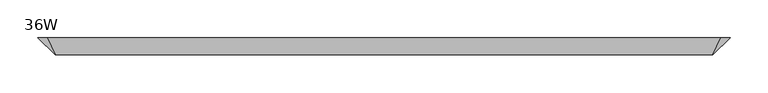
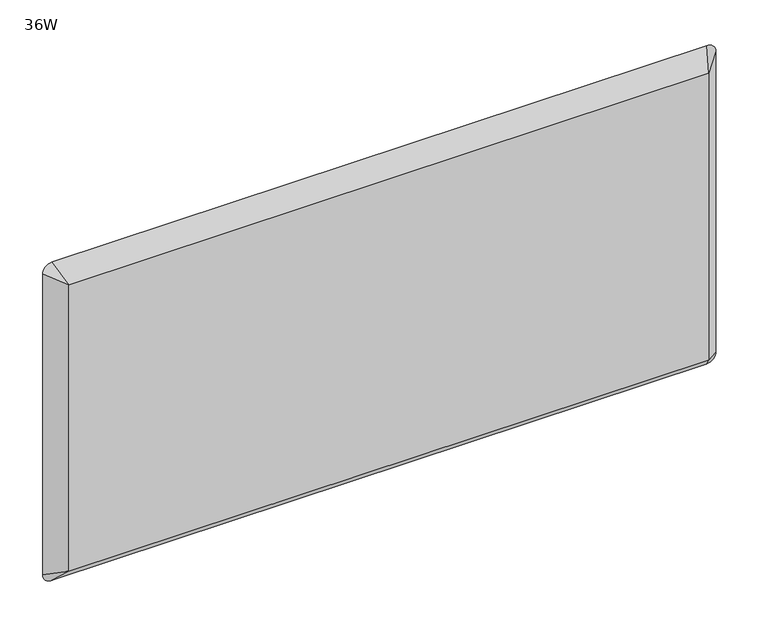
"""IFC4 building model written with IfcOpenShell, lengths in millimetres: furniture geometry, Steelcase - Answer Solution - Tackboards for Use with Wall Channels : 36W."""

import ifcopenshell
import ifcopenshell.guid

model = None  # the IFC model being written
_history = None  # IfcOwnerHistory: only IFC2X3 demands one
_inside = {}  # id of a spatial element -> (the spatial element, [elements in it])
_under = {}  # id of a project, library or spatial element -> (it, [spatial elements below it])
_declared = {}  # id of a project -> (the project, [libraries it declares])
_typed = {}  # id of a type object -> (the type object, [elements of that type])
_made_of = {}  # id of a material, layer set ... -> (it, [elements and type objects made of it])


def new_model(schema):
    """Start an empty IFC model of exactly this schema.

    Asked for "IFC4X3", IfcOpenShell would pick the latest addendum, in which some entities
    have other attributes; the version numbers below select the first issue.
    IFC2X3 requires an IfcOwnerHistory on every rooted entity: one is made here for all.
    """
    global model, _history
    if schema == "IFC4X3":
        model = ifcopenshell.file(schema_version=(4, 3, 0, 0))
    else:
        model = ifcopenshell.file(schema=schema)
    _inside.clear()
    _under.clear()
    _declared.clear()
    _typed.clear()
    _made_of.clear()
    _history = None
    if model.schema == "IFC2X3":
        org = make("IfcOrganization", Name="unknown")
        user = make(
            "IfcPersonAndOrganization",
            ThePerson=make("IfcPerson", FamilyName="unknown"),
            TheOrganization=org,
        )
        app = make(
            "IfcApplication",
            ApplicationDeveloper=org,
            Version="unknown",
            ApplicationFullName="unknown",
            ApplicationIdentifier="unknown",
        )
        _history = make(
            "IfcOwnerHistory",
            OwningUser=user,
            OwningApplication=app,
            ChangeAction="ADDED",
            CreationDate=0,
        )
    return model


def make(cls, **values):
    """One entity of the class cls with the attributes given. An attribute that is None is left unset."""
    return model.create_entity(
        cls, **{name: value for name, value in values.items() if value is not None}
    )


def rooted(cls, **values):
    """An entity with a GlobalId (a new one), such as an element, a storey or a relation."""
    return make(cls, GlobalId=ifcopenshell.guid.new(), OwnerHistory=_history, **values)


def si_unit(unit_type, name, prefix=None):
    """IfcSIUnit, for example si_unit("LENGTHUNIT", "METRE", prefix="MILLI")."""
    return make("IfcSIUnit", UnitType=unit_type, Prefix=prefix, Name=name)


def assignment(units):
    """IfcUnitAssignment: the units of a project."""
    return None if units is None else make("IfcUnitAssignment", Units=units)


def point(xyz):
    """IfcCartesianPoint."""
    return None if xyz is None else make("IfcCartesianPoint", Coordinates=xyz)


def direction(xyz):
    """IfcDirection."""
    return None if xyz is None else make("IfcDirection", DirectionRatios=xyz)


def frame(location, z_axis=None, x_axis=None):
    """IfcAxis2Placement3D, a coordinate frame: its origin and axes. An axis left out is left unset."""
    return make(
        "IfcAxis2Placement3D",
        Location=point(location),
        Axis=direction(z_axis),
        RefDirection=direction(x_axis),
    )


def origin():
    """The frame at (0, 0, 0) with its axes left unset."""
    return frame((0.0, 0.0, 0.0))


def place(relative_to, where):
    """IfcLocalPlacement: puts the frame where relative to a parent placement (None: the world)."""
    return make(
        "IfcLocalPlacement", PlacementRelTo=relative_to, RelativePlacement=where
    )


def context(
    kind, dimensions, precision=None, world=None, true_north=None, identifier=None
):
    """IfcGeometricRepresentationContext, for example the 3D "Model" context."""
    return make(
        "IfcGeometricRepresentationContext",
        ContextIdentifier=identifier,
        ContextType=kind,
        CoordinateSpaceDimension=dimensions,
        Precision=precision,
        WorldCoordinateSystem=world,
        TrueNorth=true_north,
    )


def project(units=None, contexts=None):
    """IfcProject with its units and contexts."""
    return rooted(
        "IfcProject",
        Name="project",
        RepresentationContexts=contexts,
        UnitsInContext=assignment(units),
    )


def spatial(cls, under=None, at=None, **own):
    """A site, building, storey or space (cls), placed at a placement, below another one or the project."""
    s = rooted(cls, ObjectPlacement=at, **own)
    if under is not None:
        _under.setdefault(under.id(), (under, []))[1].append(s)
    return s


def circle_curve(where, radius):
    """IfcCircle in the frame where."""
    return make("IfcCircle", Position=where, Radius=radius)


def shape(context_of_items, identifier, shape_type, items):
    """IfcShapeRepresentation: the items that make up one representation, for example the "Body"."""
    return make(
        "IfcShapeRepresentation",
        ContextOfItems=context_of_items,
        RepresentationIdentifier=identifier,
        RepresentationType=shape_type,
        Items=items,
    )


def source(mapping_origin, context_of_items, identifier, shape_type, items):
    """IfcRepresentationMap: a shape defined once, which mapped items show again and again."""
    return make(
        "IfcRepresentationMap",
        MappingOrigin=mapping_origin,
        MappedRepresentation=shape(context_of_items, identifier, shape_type, items),
    )


def transform(
    local_origin,
    x_axis=None,
    y_axis=None,
    z_axis=None,
    scale=None,
    scale2=None,
    scale3=None,
    uniform=True,
):
    """IfcCartesianTransformationOperator3D, or its non-uniform kind. x_axis, y_axis, z_axis: its Axis1, 2, 3."""
    if uniform:
        return make(
            "IfcCartesianTransformationOperator3D",
            Axis1=direction(x_axis),
            Axis2=direction(y_axis),
            LocalOrigin=point(local_origin),
            Scale=scale,
            Axis3=direction(z_axis),
        )
    return make(
        "IfcCartesianTransformationOperator3DnonUniform",
        Axis1=direction(x_axis),
        Axis2=direction(y_axis),
        LocalOrigin=point(local_origin),
        Scale=scale,
        Axis3=direction(z_axis),
        Scale2=scale2,
        Scale3=scale3,
    )


def mapped(mapping_source, mapping_target):
    """IfcMappedItem: shows the shape of a source again, moved by a transform."""
    return make(
        "IfcMappedItem", MappingSource=mapping_source, MappingTarget=mapping_target
    )


def made_of(thing, what):
    """Note that an element or type object is made of a material, layer set ...; save() writes the relation."""
    if what is not None:
        _made_of.setdefault(what.id(), (what, []))[1].append(thing)
    return thing


def element(
    cls,
    number,
    at=None,
    inside=None,
    cuts=None,
    type_object=None,
    material=None,
    context=None,
    identifier="Body",
    shape_type=None,
    held_by="IfcProductDefinitionShape",
    body=None,
    shapes=None,
    **own,
):
    """One element of the class cls, such as IfcWall. Its Tag is "e" and its number.

    at: its placement. inside: the storey or other place that contains it. cuts: it is an
    opening in that element (IfcRelVoidsElement). A single representation is given by context,
    identifier, shape_type and body (its items); several are given by shapes. held_by: the class
    of the entity that holds the representations. save() writes the other relations.
    """
    e = rooted(cls, Tag="e%d" % number, ObjectPlacement=at, **own)
    if body is not None:
        shapes = [shape(context, identifier, shape_type, body)]
    if shapes is not None:
        e.Representation = make(held_by, Representations=shapes)
    if inside is not None:
        _inside.setdefault(inside.id(), (inside, []))[1].append(e)
    if cuts is not None:
        rooted(
            "IfcRelVoidsElement", RelatingBuildingElement=cuts, RelatedOpeningElement=e
        )
    if type_object is not None:
        _typed.setdefault(type_object.id(), (type_object, []))[1].append(e)
    return made_of(e, material)


def aggregate(whole, parts):
    """IfcRelAggregates: a whole, such as a stair, and the parts it consists of."""
    return rooted("IfcRelAggregates", RelatingObject=whole, RelatedObjects=parts)


def save(model, path):
    """Write the relations noted so far, then the file.

    IfcRelAggregates (storeys below a building ...), IfcRelContainedInSpatialStructure (elements
    in a storey), IfcRelDefinesByType, IfcRelAssociatesMaterial and IfcRelDeclares: one each for
    every whole, place, type object, material and project.
    """
    for whole, parts in _under.values():
        aggregate(whole, parts)
    for where, things in _inside.values():
        rooted(
            "IfcRelContainedInSpatialStructure",
            RelatedElements=things,
            RelatingStructure=where,
        )
    for kind, things in _typed.values():
        rooted("IfcRelDefinesByType", RelatedObjects=things, RelatingType=kind)
    for what, things in _made_of.values():
        rooted("IfcRelAssociatesMaterial", RelatedObjects=things, RelatingMaterial=what)
    for by, libraries in _declared.values():
        rooted("IfcRelDeclares", RelatingContext=by, RelatedDefinitions=libraries)
    model.write(path)


def plane_surface(at):
    """IfcPlane: the flat surface through the origin of the frame at, square to its z axis."""
    return make("IfcPlane", Position=at)


def spline_surface(u_degree, v_degree, points, u_multiplicities, v_multiplicities, u_knots, v_knots, weights=None):
    """IfcBSplineSurfaceWithKnots; with weights, IfcRationalBSplineSurfaceWithKnots. points: one row for each step in u."""
    own = dict(
        UDegree=u_degree,
        VDegree=v_degree,
        ControlPointsList=[[point(p) for p in row] for row in points],
        SurfaceForm="UNSPECIFIED",
        UClosed=False,
        VClosed=False,
        SelfIntersect=False,
        UMultiplicities=u_multiplicities,
        VMultiplicities=v_multiplicities,
        UKnots=u_knots,
        VKnots=v_knots,
        KnotSpec="UNSPECIFIED",
    )
    if weights is None:
        return make("IfcBSplineSurfaceWithKnots", **own)
    return make("IfcRationalBSplineSurfaceWithKnots", WeightsData=weights, **own)


def advanced_brep(points, edges, surfaces, faces):
    """IfcAdvancedBrep: a solid bounded by faces that lie on surfaces and meet in shared edges.

    An edge is (start, end): straight between two places in points (the first is 0);
    or (start, end, curve); or (start, end, curve, False) where it runs against its curve.
    A face is (place in surfaces, loops), or (place, loops, False) where it looks against
    its surface's normal. A loop lists edges by number (the first is 1), with a minus sign
    where the edge is run from its end to its start. The first loop is the outer one.
    """
    corners = [point(p) for p in points]
    vertices = [make("IfcVertexPoint", VertexGeometry=c) for c in corners]
    made = []
    for start, end, *more in edges:
        made.append(
            make(
                "IfcEdgeCurve",
                EdgeStart=vertices[start],
                EdgeEnd=vertices[end],
                EdgeGeometry=more[0] if more else make("IfcPolyline", Points=[corners[start], corners[end]]),
                SameSense=more[1] if len(more) > 1 else True,
            )
        )
    hull = []
    for where, loops, *sense in faces:
        bounds = []
        for j, loop in enumerate(loops):
            ring = [make("IfcOrientedEdge", EdgeElement=made[abs(k) - 1], Orientation=k > 0) for k in loop]
            bounds.append(
                make(
                    "IfcFaceOuterBound" if j == 0 else "IfcFaceBound",
                    Bound=make("IfcEdgeLoop", EdgeList=ring),
                    Orientation=True,
                )
            )
        hull.append(make("IfcAdvancedFace", Bounds=bounds, FaceSurface=surfaces[where], SameSense=sense[0] if sense else True))
    return make("IfcAdvancedBrep", Outer=make("IfcClosedShell", CfsFaces=hull))


def furniture_36w_668825fa(model_context):
    return source(origin(), model_context, "Body", "AdvancedBrep", [
        advanced_brep(
        [(929.64, -58.549664, 1158.24), (60.96, -58.549664, 1158.24), (60.96, -58.549664, 746.76), (929.64, -58.549664, 746.76), (939.8, -36.19754, 1181.1), (952.5, -36.19754, 1168.4), (952.5, -36.19754, 736.6), (939.8, -36.19754, 723.9), (50.8, -36.19754, 723.9), (38.1, -36.19754, 736.6), (38.1, -36.19754, 1168.4), (50.8, -36.19754, 1181.1)],
        [
            (0, 1),
            (1, 2),
            (2, 3),
            (3, 0),
            (4, 5, circle_curve(frame((939.8, -36.19754, 1168.4), z_axis=(0.0, 1.0, 0.0), x_axis=(-1.0, 0.0, 0.0)), 12.7)),
            (5, 6),
            (6, 7, circle_curve(frame((939.8, -36.19754, 736.6), z_axis=(0.0, 1.0, 0.0), x_axis=(-1.0, 0.0, 0.0)), 12.7)),
            (7, 8),
            (8, 9, circle_curve(frame((50.8, -36.19754, 736.6), z_axis=(0.0, 1.0, 0.0), x_axis=(-1.0, 0.0, 0.0)), 12.7)),
            (9, 10),
            (10, 11, circle_curve(frame((50.8, -36.19754, 1168.4), z_axis=(0.0, 1.0, 0.0), x_axis=(-1.0, 0.0, 0.0)), 12.7)),
            (11, 4),
            (4, 0),
            (0, 5),
            (3, 6),
            (3, 7),
            (2, 8),
            (2, 9),
            (1, 10),
            (1, 11),
        ],
        [
            plane_surface(frame((495.3, -58.549664, 952.5), z_axis=(0.0, -1.0, 0.0), x_axis=(1.0, 0.0, 0.0))),
            plane_surface(frame((495.3, -36.19754, 952.5), z_axis=(0.0, 1.0, 0.0), x_axis=(1.0, 0.0, 0.0))),
            spline_surface(2, 1, [[(952.5, -36.19754, 1168.4), (929.64, -58.549664, 1158.24)], [(952.5000000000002, -36.19754, 1181.1000000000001), (929.64, -58.549664, 1158.24)], [(939.8, -36.19754, 1181.1), (929.64, -58.549664, 1158.24)]], [3, 3], [2, 2], [0.0, 1.0], [0.0, 1.0], weights=[[1.0, 1.0], [0.7071067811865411, 0.7071067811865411], [1.0, 1.0]]),
            plane_surface(frame((952.5, -36.19754, 952.5), z_axis=(0.6991196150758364, -0.7150047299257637, 0.0), x_axis=(0.0, 0.0, 1.0))),
            spline_surface(2, 1, [[(939.8, -36.19754, 723.9), (929.64, -58.549664, 746.76)], [(952.5, -36.19754, 723.9), (929.64, -58.549664, 746.76)], [(952.5, -36.19754, 736.6), (929.64, -58.549664, 746.76)]], [3, 3], [2, 2], [0.0, 1.0], [0.0, 1.0], weights=[[1.0, 1.0], [0.7071067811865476, 0.7071067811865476], [1.0, 1.0]]),
            plane_surface(frame((495.3, -36.19754, 723.9), z_axis=(0.0, -0.7150047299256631, -0.6991196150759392), x_axis=(1.0, 0.0, 0.0))),
            spline_surface(2, 1, [[(38.1, -36.19754, 736.6), (60.96, -58.549664, 746.76)], [(38.10000000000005, -36.19754, 723.9), (60.96, -58.549664, 746.76)], [(50.8, -36.19754, 723.9), (60.96, -58.549664, 746.76)]], [3, 3], [2, 2], [0.0, 1.0], [0.0, 1.0], weights=[[1.0, 1.0], [0.7071067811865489, 0.7071067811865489], [1.0, 1.0]]),
            plane_surface(frame((38.1, -36.19754, 952.5), z_axis=(-0.699119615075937, -0.7150047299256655, 0.0), x_axis=(0.0, 0.0, -1.0))),
            spline_surface(2, 1, [[(50.8, -36.19754, 1181.1), (60.96, -58.549664, 1158.24)], [(38.10000000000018, -36.19754, 1181.0999999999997), (60.96, -58.549664, 1158.24)], [(38.1, -36.19754, 1168.4), (60.96, -58.549664, 1158.24)]], [3, 3], [2, 2], [0.0, 1.0], [0.0, 1.0], weights=[[1.0, 1.0], [0.7071067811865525, 0.7071067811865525], [1.0, 1.0]]),
            plane_surface(frame((495.3, -36.19754, 1181.1), z_axis=(0.0, -0.7150047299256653, 0.6991196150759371), x_axis=(-1.0, 0.0, 0.0))),
        ],
        [
            (0, [[1, 2, 3, 4]]),
            (1, [[5, 6, 7, 8, 9, 10, 11, 12]]),
            (2, [[-5, 13, 14]]),
            (3, [[-6, -14, -4, 15]]),
            (4, [[-7, -15, 16]]),
            (5, [[-8, -16, -3, 17]]),
            (6, [[-9, -17, 18]]),
            (7, [[-10, -18, -2, 19]]),
            (8, [[-11, -19, 20]]),
            (9, [[-12, -20, -1, -13]]),
        ],
    ),
    ])


if __name__ == "__main__":
    model = new_model("IFC4")
    model_context = context("Model", 3, world=origin())
    ifc_project = project(units=[si_unit("LENGTHUNIT", "METRE", prefix="MILLI")], contexts=[model_context])
    site = spatial("IfcSite", under=ifc_project)
    building = spatial("IfcBuilding", under=site)
    placement = place(None, origin())
    furniture_36w_shape = furniture_36w_668825fa(model_context)
    element("IfcFurniture", 1, ObjectType="Steelcase - Answer Solution - Tackboards for Use with Wall Channels : 36W", at=placement, inside=building, context=model_context, shape_type="MappedRepresentation", body=[
        mapped(furniture_36w_shape, transform((0.0, 0.0, 0.0), x_axis=(1.0, 0.0, 0.0), y_axis=(0.0, 1.0, 0.0), z_axis=(0.0, 0.0, 1.0))),
    ])
    save(model, "model.ifc")
